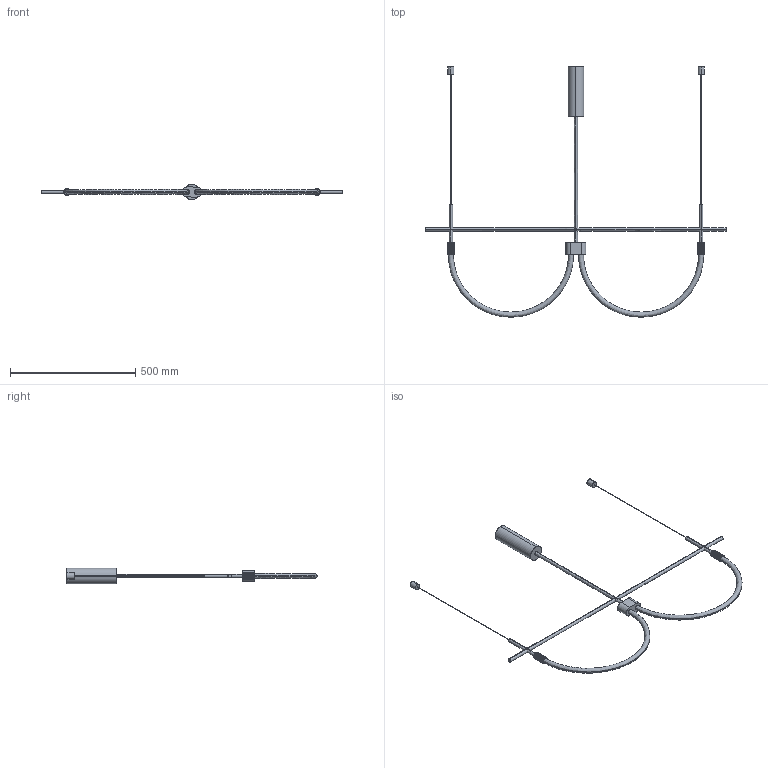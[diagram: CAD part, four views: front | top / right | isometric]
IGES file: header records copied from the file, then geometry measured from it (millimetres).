
Start section: SolidWorks IGES file using analytic representation for surfaces
Global section: file name: C:\Users\Agustin\Desktop\ARNOLD\2024 SEPTIEMBRE\3D\CRAM_C1329\CRAM_C1329\CRAM_C1329_6.IGS; native system: SolidWorks 2018; preprocessor: SolidWorks 2018; author: Agustin; date: 240913.164903; units: millimetre
Bounding box: 1200 x 999.77 x 62 mm (x, y, z)
Surface area: 274872.9 mm2 (no closed solid volume)
Topology: 0 solids, 0 shells, 262 faces, 2506 edges, 2506 vertices
Faces by surface type: bspline 183, revolution 79
